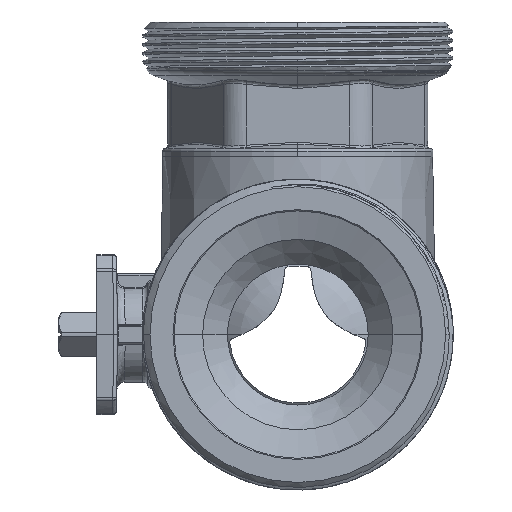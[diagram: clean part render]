
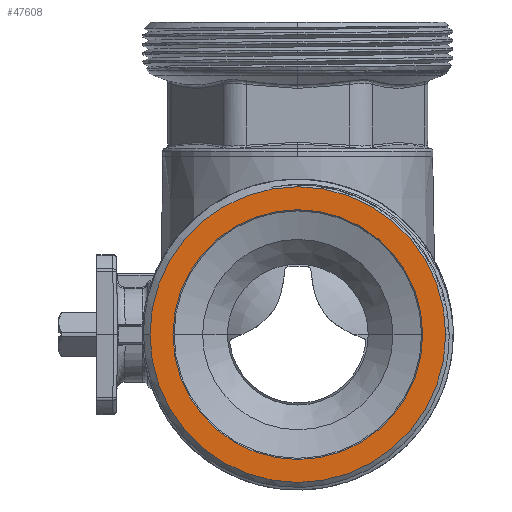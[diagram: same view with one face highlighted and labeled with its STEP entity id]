
A CAD part, left-side view. The second image highlights one B-rep face of the part: STEP entity #47608.
In plain terms, the highlighted planar face has unit normal (-1, 0, 0).
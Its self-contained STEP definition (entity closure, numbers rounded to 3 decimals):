
#17564=CARTESIAN_POINT('',(-68.5,0.,0.));
#17565=DIRECTION('',(1.,0.,0.));
#17566=DIRECTION('',(0.,1.,0.));
#17567=AXIS2_PLACEMENT_3D('',#17564,#17565,#17566);
#17636=CARTESIAN_POINT('',(-68.5,0.,0.));
#17637=DIRECTION('',(-1.,0.,0.));
#17638=DIRECTION('',(0.,1.,0.));
#17639=AXIS2_PLACEMENT_3D('',#17636,#17637,#17638);
#17641=CARTESIAN_POINT('',(-68.5,0.,0.));
#17642=DIRECTION('',(-1.,0.,0.));
#17643=DIRECTION('',(0.,1.,0.));
#17644=AXIS2_PLACEMENT_3D('',#17641,#17642,#17643);
#17646=CARTESIAN_POINT('',(-68.5,0.,0.));
#17647=DIRECTION('',(1.,0.,0.));
#17648=DIRECTION('',(0.,1.,0.));
#17649=AXIS2_PLACEMENT_3D('',#17646,#17647,#17648);
#22278=CARTESIAN_POINT('',(-68.5,32.8,0.));
#22279=VERTEX_POINT('',#22278);
#22290=CARTESIAN_POINT('',(-68.5,-32.8,0.));
#22291=VERTEX_POINT('',#22290);
#22292=CARTESIAN_POINT('',(-68.5,38.838,0.));
#22293=CARTESIAN_POINT('',(-68.5,-38.838,0.));
#22294=VERTEX_POINT('',#22292);
#22295=VERTEX_POINT('',#22293);
#47593=CARTESIAN_POINT('',(-68.5,0.,0.));
#47594=DIRECTION('',(-1.,0.,0.));
#47595=DIRECTION('',(0.,1.,0.));
#47596=AXIS2_PLACEMENT_3D('',#47593,#47594,#47595);
#47597=PLANE('',#47596);
#47598=ORIENTED_EDGE('',*,*,#47286,.T.);
#47599=ORIENTED_EDGE('',*,*,#47587,.F.);
#47600=EDGE_LOOP('',(#47598,#47599));
#47601=FACE_OUTER_BOUND('',#47600,.F.);
#47603=ORIENTED_EDGE('',*,*,#47602,.T.);
#47605=ORIENTED_EDGE('',*,*,#47604,.F.);
#47606=EDGE_LOOP('',(#47603,#47605));
#47607=FACE_BOUND('',#47606,.F.);
#17568=CIRCLE('',#17567,38.838);
#17640=CIRCLE('',#17639,38.838);
#17645=CIRCLE('',#17644,32.8);
#17650=CIRCLE('',#17649,32.8);
#47286=EDGE_CURVE('',#22294,#22295,#17568,.T.);
#47587=EDGE_CURVE('',#22294,#22295,#17640,.T.);
#47602=EDGE_CURVE('',#22279,#22291,#17645,.T.);
#47604=EDGE_CURVE('',#22279,#22291,#17650,.T.);
#47608=ADVANCED_FACE('',(#47601,#47607),#47597,.T.);
